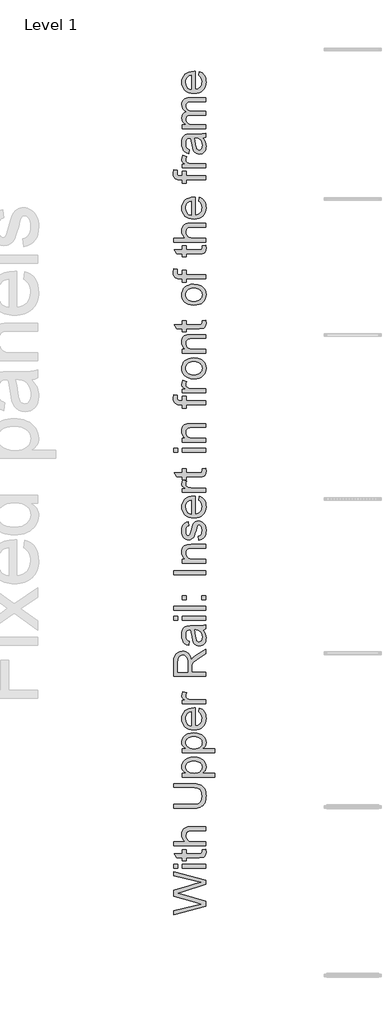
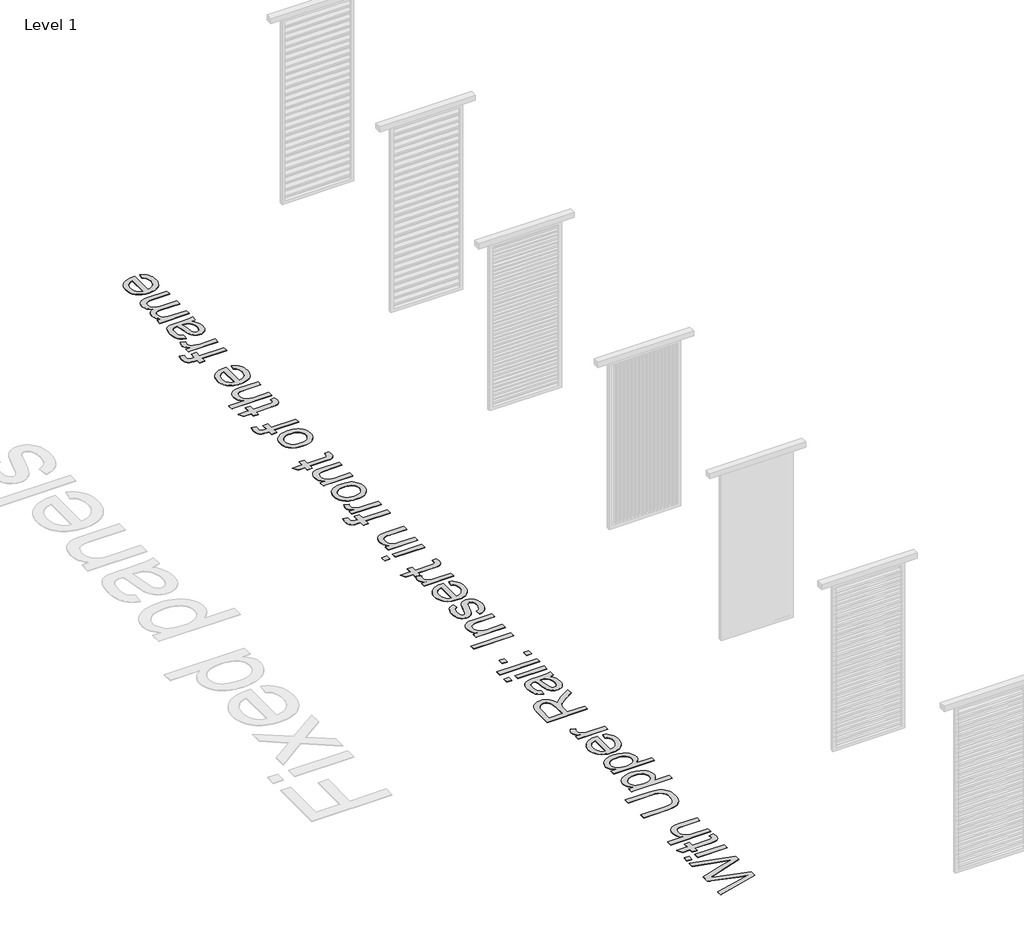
# One storey, part 26 of 80: 1 proxy.
"""IFC4 building model written with IfcOpenShell, lengths in millimetres."""

from ifc_helpers import new_model, si_unit, origin, origin_with_axes, place, context, project, spatial, polyline, outline, extrude, element, save

model = new_model("IFC4")

# Units and contexts
model_context = context("Model", 3, world=origin())
ifc_project = project(units=[si_unit("LENGTHUNIT", "METRE", prefix="MILLI")], contexts=[model_context])

# Site, building, storey
site = spatial("IfcSite", under=ifc_project)
building = spatial("IfcBuilding", under=site)
storey = spatial("IfcBuildingStorey", under=building, Name="Level 1", Elevation=0.0)

# Proxy
placement = place(None, origin())
element("IfcBuildingElementProxy", 1, Name="500mm Arial", ObjectType="500mm Arial", at=placement, inside=storey, context=model_context, shape_type="SweptSolid", body=[
    extrude(outline(polyline([(446088.2731482, -62789.962909), (445585.9915975, -62926.9376386), (445585.9915975, -62862.1904074), (445916.1043745, -62782.7278965), (446018.0076872, -62758.2024301), (445927.8765983, -62731.9601811), (445585.9915975, -62632.3867878), (445585.9915975, -62539.0673883), (445833.8214349, -62466.7172626), (445925.7919337, -62435.7232045), (446018.0076872, -62412.883864), (445919.0474305, -62389.0941616), (445585.9915975, -62308.8958867), (445585.9915975, -62244.1486555), (446088.2731482, -62381.2460124), (446088.2731482, -62448.3231629), (445700.77078, -62568.7432026), (445646.6921267, -62585.5431471), (445711.8072398, -62604.4277561), (446088.2731482, -62714.179218), (446088.2731482, -62789.962909)])), origin_with_axes(), (0.0, 0.0, 1.0), 5.0),
    extrude(outline(polyline([(446088.2731482, -62189.2116109), (445719.4101344, -62189.2116109), (445719.4101344, -62126.4264171), (446088.2731482, -62126.4264171), (446088.2731482, -62189.2116109)])), origin_with_axes(), (0.0, 0.0, 1.0), 5.0),
    extrude(outline(polyline([(445648.7767913, -62189.2116109), (445585.9915975, -62189.2116109), (445585.9915975, -62126.4264171), (445648.7767913, -62126.4264171), (445648.7767913, -62189.2116109)])), origin_with_axes(), (0.0, 0.0, 1.0), 5.0),
    extrude(outline(polyline([(446035.9112776, -61898.8300894), (446090.1125582, -61890.9819402), (446096.1212975, -61937.9482082), (446093.5154667, -61968.083875), (446085.6979743, -61990.5553335), (446073.6498389, -62006.435573), (446058.3520793, -62016.7975825), (446032.0791735, -62022.4997534), (445987.1055996, -62024.4004771), (445782.1953282, -62024.4004771), (445782.1953282, -62071.4893725), (445719.4101344, -62071.4893725), (445719.4101344, -62024.4004771), (445629.7695549, -62024.4004771), (445592.8587281, -61961.6152832), (445719.4101344, -61961.6152832), (445719.4101344, -61898.8300894), (445782.1953282, -61898.8300894), (445782.1953282, -61961.6152832), (445985.2661896, -61961.6152832), (446017.6398052, -61958.3043453), (446029.1054607, -61947.5744538), (446033.3361036, -61926.1759844), (446035.9112776, -61898.8300894)])), origin_with_axes(), (0.0, 0.0, 1.0), 5.0),
    extrude(outline(polyline([(446088.2731482, -61836.0448955), (445585.9915975, -61836.0448955), (445585.9915975, -61773.2597017), (445770.6683591, -61773.2597017), (445744.8093205, -61750.1980991), (445726.3385786, -61724.3007395), (445715.2561335, -61695.5676228), (445711.5619852, -61663.9987491), (445715.5933587, -61626.0762468), (445727.6874793, -61593.4880334), (445746.8939851, -61567.8282642), (445772.2625144, -61550.6910946), (445807.1193334, -61541.0341922), (445854.7907086, -61537.8152248), (446088.2731482, -61537.8152248), (446088.2731482, -61600.6004186), (445861.2899572, -61600.6004186), (445821.9878974, -61605.5974824), (445806.9813777, -61611.8438121), (445795.0711981, -61620.5886737), (445786.0044397, -61631.6251336), (445779.5281838, -61644.7462581), (445774.347179, -61677.242501), (445777.842058, -61703.7759899), (445788.3266948, -61728.6846666), (445804.7894141, -61749.3167152), (445826.2185403, -61763.0203195), (445854.6987381, -61770.6998562), (445892.3146721, -61773.2597017), (446088.2731482, -61773.2597017), (446088.2731482, -61836.0448955)])), origin_with_axes(), (0.0, 0.0, 1.0), 5.0),
    extrude(outline(polyline([(445585.9915975, -60917.8114356), (445585.9915975, -60855.0262417), (445875.7599824, -60855.0262417), (445943.618882, -60859.2875415), (445995.8734538, -60872.0714409), (446017.0649895, -60882.3031588), (446036.1871891, -60895.9531137), (446053.2400524, -60913.0213054), (446068.2235795, -60933.507734), (446080.4288311, -60957.4353922), (446089.146868, -60984.8272724), (446094.3776901, -61015.6833747), (446096.1212975, -61050.0036992), (446094.6037842, -61083.4771286), (446090.0512445, -61113.7545833), (446082.4636784, -61140.8360631), (446071.8410858, -61164.721568), (446058.340583, -61185.4149302), (446042.1192863, -61202.9199818), (446023.1771956, -61217.2367228), (446001.514311, -61228.3651532), (445976.3872043, -61236.7076438), (445947.0524473, -61242.6665657), (445875.7599824, -61247.4337033), (445585.9915975, -61247.4337033), (445585.9915975, -61184.6485094), (445873.5526904, -61184.6485094), (445929.9765914, -61181.5521693), (445969.2633228, -61172.2631489), (445996.471262, -61155.4325476), (446016.6587865, -61129.7114648), (446029.1667743, -61096.1728896), (446033.3361036, -61055.8898111), (446031.2744316, -61021.2859109), (446025.0894156, -60992.0316281), (446014.7810555, -60968.1269626), (446000.3493514, -60949.5719145), (445980.054528, -60935.676705), (445952.15681, -60925.7515553), (445916.6561975, -60919.7964655), (445873.5526904, -60917.8114356), (445585.9915975, -60917.8114356)])), origin_with_axes(), (0.0, 0.0, 1.0), 5.0),
    extrude(outline(polyline([(446229.5398344, -60753.0003017), (445719.4101344, -60753.0003017), (445719.4101344, -60690.2151079), (445780.9690549, -60690.2151079), (445750.6034619, -60669.7363435), (445728.9137526, -60646.8050325), (445715.899927, -60620.0722742), (445711.5619852, -60588.1891679), (445713.0794984, -60566.292525), (445717.6320381, -60545.7294543), (445725.2196042, -60526.4999558), (445735.8421969, -60508.6040296), (445749.2239044, -60492.4325502), (445765.0888155, -60478.3763923), (445804.268248, -60456.610041), (445850.5294089, -60443.4582596), (445901.0212127, -60439.0743325), (445954.7166556, -60444.025411), (446002.7405844, -60458.8786466), (446024.0164264, -60469.899778), (446042.6557808, -60483.1588583), (446058.6586476, -60498.6558873), (446072.0250268, -60516.3908652), (446090.0972298, -60555.0951168), (446096.1212975, -60595.7920625), (446092.0899239, -60624.6554707), (446079.9958033, -60650.4225388), (446061.7396593, -60672.4801301), (446039.2222155, -60690.2151079), (446229.5398344, -60690.2151079), (446229.5398344, -60753.0003017)]), holes=[polyline([(445906.7846973, -60690.2151079), (445937.0429914, -60688.5174858), (445963.0706425, -60683.4246194), (445984.8676508, -60674.9365088), (446002.434016, -60663.0531539), (446015.9536793, -60648.7479093), (446025.6105817, -60632.9941292), (446031.4047231, -60615.7918139), (446033.3361036, -60597.1409631), (446031.3357453, -60578.2218651), (446025.3346702, -60560.7053172), (446015.3328785, -60544.5913194), (446001.33037, -60529.8798717), (445983.1278755, -60517.6209706), (445960.5261254, -60508.8646127), (445933.5251198, -60503.610798), (445902.1248587, -60501.8595264), (445872.1271477, -60503.5686448), (445846.1454817, -60508.6960001), (445824.1798609, -60517.2415923), (445806.2302853, -60529.2054213), (445792.2814263, -60543.545155), (445782.3179556, -60559.2184608), (445776.3398732, -60576.2253389), (445774.347179, -60594.5657892), (445776.4663326, -60612.8487579), (445782.8237933, -60630.0510733), (445793.4195612, -60646.1727353), (445808.2536362, -60661.213744), (445827.126749, -60673.9018407), (445849.8396301, -60682.9647669), (445876.3922795, -60688.4025227), (445906.7846973, -60690.2151079)])]), origin_with_axes(), (0.0, 0.0, 1.0), 5.0),
    extrude(outline(polyline([(446229.5398344, -60368.4409895), (445719.4101344, -60368.4409895), (445719.4101344, -60305.6557956), (445780.9690549, -60305.6557956), (445750.6034619, -60285.1770312), (445728.9137526, -60262.2457202), (445715.899927, -60235.5129619), (445711.5619852, -60203.6298556), (445713.0794984, -60181.7332127), (445717.6320381, -60161.170142), (445725.2196042, -60141.9406436), (445735.8421969, -60124.0447173), (445749.2239044, -60107.873238), (445765.0888155, -60093.8170801), (445804.268248, -60072.0507287), (445850.5294089, -60058.8989473), (445901.0212127, -60054.5150202), (445954.7166556, -60059.4660988), (446002.7405844, -60074.3193343), (446024.0164264, -60085.3404658), (446042.6557808, -60098.599546), (446058.6586476, -60114.096575), (446072.0250268, -60131.8315529), (446090.0972298, -60170.5358045), (446096.1212975, -60211.2327502), (446092.0899239, -60240.0961584), (446079.9958033, -60265.8632265), (446061.7396593, -60287.9208178), (446039.2222155, -60305.6557956), (446229.5398344, -60305.6557956), (446229.5398344, -60368.4409895)]), holes=[polyline([(445906.7846973, -60305.6557956), (445937.0429914, -60303.9581735), (445963.0706425, -60298.8653071), (445984.8676508, -60290.3771965), (446002.434016, -60278.4938416), (446015.9536793, -60264.188597), (446025.6105817, -60248.4348169), (446031.4047231, -60231.2325016), (446033.3361036, -60212.5816508), (446031.3357453, -60193.6625528), (446025.3346702, -60176.1460049), (446015.3328785, -60160.0320071), (446001.33037, -60145.3205594), (445983.1278755, -60133.0616583), (445960.5261254, -60124.3053004), (445933.5251198, -60119.0514857), (445902.1248587, -60117.3002141), (445872.1271477, -60119.0093325), (445846.1454817, -60124.1366878), (445824.1798609, -60132.68228), (445806.2302853, -60144.6461091), (445792.2814263, -60158.9858427), (445782.3179556, -60174.6591485), (445776.3398732, -60191.6660266), (445774.347179, -60210.0064769), (445776.4663326, -60228.2894456), (445782.8237933, -60245.491761), (445793.4195612, -60261.613423), (445808.2536362, -60276.6544317), (445827.126749, -60289.3425284), (445849.8396301, -60298.4054546), (445876.3922795, -60303.8432104), (445906.7846973, -60305.6557956)])]), origin_with_axes(), (0.0, 0.0, 1.0), 5.0),
    extrude(outline(polyline([(445978.399059, -59725.6285166), (445986.2472082, -59664.069596), (446010.9029661, -59673.5080685), (446032.6309965, -59686.2498147), (446051.4312993, -59702.2948346), (446067.3038745, -59721.6431283), (446079.9114971, -59744.0954263), (446088.9169417, -59769.4524592), (446094.3202085, -59797.7142271), (446096.1212975, -59828.8807299), (446093.013461, -59867.8379003), (446083.6899517, -59902.5490994), (446068.1507695, -59933.0143271), (446046.3959144, -59959.2335835), (446019.030859, -59980.3178203), (445986.6610755, -59995.3779895), (445949.286564, -60004.414091), (445906.9073246, -60007.4261249), (445863.0910461, -60004.3834342), (445824.4711009, -59995.2553622), (445791.0474888, -59980.0419088), (445762.8202098, -59958.7430742), (445740.3947365, -59932.5927957), (445724.3765413, -59902.8250109), (445714.7656242, -59869.4397198), (445711.5619852, -59832.4369225), (445714.75796, -59796.6259095), (445724.3458845, -59764.2407976), (445740.3257587, -59735.2815868), (445762.6975825, -59709.7482771), (445790.8635478, -59688.9054628), (445824.2258462, -59674.0177383), (445862.7844778, -59665.0851036), (445906.5394426, -59662.1075587), (445923.4620144, -59662.4754407), (445923.4620144, -59944.640931), (445948.5163111, -59941.0042642), (445970.4589393, -59933.7730837), (445989.2898989, -59922.9473896), (446005.00919, -59908.5271818), (446017.4022147, -59891.309538), (446026.2543752, -59872.0915359), (446031.5656715, -59850.8731754), (446033.3361036, -59827.6544565), (446030.0558225, -59794.2385087), (446020.2149791, -59766.095536), (446003.2004368, -59743.2255387), (445978.399059, -59725.6285166)]), holes=[polyline([(445860.6768206, -59944.640931), (445860.6768206, -59724.8927526), (445827.5061273, -59733.3846953), (445803.7777386, -59750.0313556), (445790.9018688, -59767.1531968), (445781.7048189, -59786.6356141), (445776.186589, -59808.4786075), (445774.347179, -59832.6821771), (445780.2179625, -59875.003935), (445787.5564419, -59893.4171953), (445797.830313, -59909.9987098), (445810.564395, -59923.9130798), (445825.2835069, -59934.3249067), (445841.9876488, -59941.2341905), (445860.6768206, -59944.640931)])]), origin_with_axes(), (0.0, 0.0, 1.0), 5.0),
    extrude(outline(polyline([(446088.2731482, -59599.3223649), (445719.4101344, -59599.3223649), (445719.4101344, -59544.3853203), (445773.979297, -59544.3853203), (445742.3414454, -59524.0904969), (445723.702091, -59505.3898288), (445714.5970116, -59486.627847), (445711.5619852, -59466.1490826), (445716.4057648, -59434.879113), (445730.9371036, -59403.1186341), (445787.2230488, -59424.0879078), (445777.5661465, -59446.1608275), (445774.347179, -59468.2337473), (445777.4435191, -59486.9804006), (445786.7325395, -59503.7343598), (445801.509133, -59517.2693515), (445821.0681924, -59526.3591025), (445856.1396093, -59533.9926539), (445894.3993368, -59536.537171), (446088.2731482, -59536.537171), (446088.2731482, -59599.3223649)])), origin_with_axes(), (0.0, 0.0, 1.0), 5.0),
    extrude(outline(polyline([(446088.2731482, -59159.826008), (445585.9915975, -59159.826008), (445585.9915975, -58943.3887675), (445589.3791775, -58885.217427), (445599.5419176, -58842.8956691), (445618.3038994, -58811.9629247), (445647.4892043, -58787.9586245), (445683.6795956, -58772.553566), (445723.4568363, -58767.4185464), (445749.2545613, -58769.5453642), (445772.9369647, -58775.9258176), (445794.5040467, -58786.5599065), (445813.9558072, -58801.447631), (445830.6714453, -58820.7805963), (445844.0301603, -58844.7504075), (445854.031952, -58873.3570647), (445860.6768206, -58906.600568), (445874.1964839, -58885.9072057), (445887.5322062, -58870.9160144), (445952.15681, -58820.0256718), (446088.2731482, -58736.2712042), (446088.2731482, -58809.2344666), (445984.1625436, -58874.5948344), (445915.2459832, -58921.8063571), (445895.1504292, -58939.3573939), (445882.6884266, -58954.9770503), (445870.7322618, -58984.8368056), (445868.5249698, -59021.2571231), (445868.5249698, -59097.0408141), (446088.2731482, -59097.0408141), (446088.2731482, -59159.826008)]), holes=[polyline([(445805.7397759, -59097.0408141), (445805.7397759, -58956.509892), (445803.5171555, -58916.1501714), (445796.8492944, -58884.8342166), (445785.2916684, -58861.259112), (445768.3997534, -58844.1219424), (445747.9669743, -58833.6832908), (445725.7867557, -58830.2037403), (445709.7302394, -58831.8630414), (445695.1605796, -58836.8409446), (445682.0777761, -58845.13745), (445670.481829, -58856.7525576), (445660.985875, -58871.9545146), (445654.2030508, -58891.0115684), (445648.7767913, -58940.6909662), (445648.7767913, -59097.0408141), (445805.7397759, -59097.0408141)])]), origin_with_axes(), (0.0, 0.0, 1.0), 5.0),
    extrude(outline(polyline([(446041.1842529, -58429.9481295), (446066.9053357, -58459.9458406), (446083.735937, -58490.8325997), (446093.0249573, -58523.3135142), (446096.1212975, -58558.0936912), (446094.2588949, -58586.0488907), (446088.6716871, -58610.5628608), (446079.3596741, -58631.6356013), (446066.3228559, -58649.2671123), (446050.3889669, -58663.1891466), (446032.3857418, -58673.1334568), (446012.3131804, -58679.1000429), (445990.1712829, -58681.0889049), (445964.1436317, -58678.0845353), (445940.5072135, -58669.0714264), (445920.2737038, -58655.1685527), (445904.454778, -58637.4948885), (445892.4986131, -58616.7248842), (445883.8533862, -58593.5329901), (445874.4110817, -58539.2090821), (445864.4782678, -58475.0136739), (445852.8286713, -58430.3160115), (445838.8491555, -58429.9481295), (445810.8288102, -58434.270743), (445792.4960241, -58447.2385833), (445784.5559044, -58460.3137226), (445778.8843903, -58476.2399473), (445774.347179, -58516.6456531), (445777.3668771, -58554.0469892), (445786.4259712, -58580.1666109), (445803.1799304, -58597.9782308), (445829.2842236, -58610.4555618), (445821.4360744, -58673.2407557), (445787.1004215, -58662.3422516), (445760.1224085, -58646.0788017), (445739.49036, -58622.9328928), (445724.1926003, -58591.3870118), (445714.719639, -58552.8053875), (445711.5619852, -58508.5522492), (445714.351757, -58466.107864), (445722.7210724, -58432.4619898), (445735.3057023, -58407.0934606), (445750.7414177, -58389.4811101), (445769.8252962, -58377.8008567), (445793.3544154, -58370.228619), (445848.29146, -58367.1629357), (445926.4050704, -58367.1629357), (446035.4820819, -58363.9746251), (446062.4447665, -58359.2534728), (446088.2731482, -58351.4666372), (446088.2731482, -58414.2518311), (446066.4454832, -58424.3072723), (446041.1842529, -58429.9481295)]), holes=[polyline([(445915.6138652, -58429.9481295), (445926.0678452, -58472.1319317), (445934.8663562, -58531.2383055), (445945.0444248, -58585.2556452), (445952.0035259, -58599.3118031), (445961.5991146, -58609.7197978), (445973.0954269, -58616.1577328), (445985.7566989, -58618.3037111), (446004.4267102, -58613.628544), (446019.7244698, -58599.603043), (446029.9331952, -58576.5337762), (446033.3361036, -58544.727312), (446029.5806416, -58511.0047958), (446018.3142555, -58481.2063542), (446001.7135805, -58457.0487698), (445981.9552516, -58440.2488254), (445961.5991146, -58432.799215), (445933.3948283, -58430.3160115), (445915.6138652, -58429.9481295)])]), origin_with_axes(), (0.0, 0.0, 1.0), 5.0),
    extrude(outline(polyline([(446088.2731482, -58280.8332942), (445719.4101344, -58280.8332942), (445719.4101344, -58218.0481003), (446088.2731482, -58218.0481003), (446088.2731482, -58280.8332942)])), origin_with_axes(), (0.0, 0.0, 1.0), 5.0),
    extrude(outline(polyline([(445648.7767913, -58280.8332942), (445585.9915975, -58280.8332942), (445585.9915975, -58218.0481003), (445648.7767913, -58218.0481003), (445648.7767913, -58280.8332942)])), origin_with_axes(), (0.0, 0.0, 1.0), 5.0),
    extrude(outline(polyline([(446088.2731482, -58123.8703096), (445585.9915975, -58123.8703096), (445585.9915975, -58061.0851157), (446088.2731482, -58061.0851157), (446088.2731482, -58123.8703096)])), origin_with_axes(), (0.0, 0.0, 1.0), 5.0),
    extrude(outline(polyline([(446088.2731482, -57951.2110265), (446025.4879544, -57951.2110265), (446025.4879544, -57888.4258326), (446088.2731482, -57888.4258326), (446088.2731482, -57951.2110265)])), origin_with_axes(), (0.0, 0.0, 1.0), 5.0),
    extrude(outline(polyline([(445782.1953282, -57951.2110265), (445719.4101344, -57951.2110265), (445719.4101344, -57888.4258326), (445782.1953282, -57888.4258326), (445782.1953282, -57951.2110265)])), origin_with_axes(), (0.0, 0.0, 1.0), 5.0),
    extrude(outline(polyline([(446088.2731482, -57558.803565), (445585.9915975, -57558.803565), (445585.9915975, -57496.0183711), (446088.2731482, -57496.0183711), (446088.2731482, -57558.803565)])), origin_with_axes(), (0.0, 0.0, 1.0), 5.0),
    extrude(outline(polyline([(446088.2731482, -57378.2961327), (445719.4101344, -57378.2961327), (445719.4101344, -57315.5109388), (445770.9136137, -57315.5109388), (445744.9472762, -57293.6986022), (445726.3998923, -57267.5023384), (445715.271462, -57236.9221476), (445711.5619852, -57201.9580296), (445714.5510264, -57171.0099568), (445723.51815, -57142.6677147), (445737.3443817, -57119.0312966), (445754.9107469, -57102.2006953), (445776.1712606, -57090.781025), (445801.0799373, -57083.3773999), (445861.7804665, -57080.0664619), (446088.2731482, -57080.0664619), (446088.2731482, -57142.8516557), (445870.2417524, -57142.8516557), (445837.7761664, -57144.6604089), (445814.6915712, -57150.0866683), (445798.1522098, -57160.0961243), (445785.3223252, -57175.654467), (445777.0909656, -57195.5967368), (445774.347179, -57218.7579741), (445775.8876849, -57237.8226921), (445780.5092024, -57255.5308452), (445788.2117317, -57271.8824335), (445798.9952727, -57286.8774569), (445814.0860987, -57299.4046052), (445834.7104831, -57308.3525683), (445860.8684258, -57313.7213462), (445892.5599268, -57315.5109388), (446088.2731482, -57315.5109388), (446088.2731482, -57378.2961327)])), origin_with_axes(), (0.0, 0.0, 1.0), 5.0),
    extrude(outline(polyline([(445978.399059, -57017.2812681), (445970.5509098, -56954.4960742), (445997.4062954, -56944.5939172), (446017.1492958, -56925.4333966), (446029.2894017, -56896.8918851), (446033.3361036, -56858.8467555), (446029.6266268, -56821.2614783), (446018.4981965, -56794.8352883), (446002.3727024, -56779.2003035), (445983.6720343, -56773.9886419), (445967.6691675, -56779.2309603), (445955.467748, -56794.9579156), (445937.5641575, -56859.5825195), (445920.9941393, -56916.8801402), (445906.8460109, -56954.1281922), (445891.4102956, -56978.0558503), (445870.9775164, -56995.3922893), (445846.8505889, -57005.9229115), (445820.3324284, -57009.4331188), (445796.0062315, -57006.6126902), (445773.5501014, -56998.1514043), (445753.8530862, -56984.815682), (445737.8042342, -56967.371944), (445727.7028077, -56950.035505), (445719.2261934, -56927.4567476), (445713.4780372, -56901.3524543), (445711.5619852, -56873.4394079), (445714.6429969, -56832.5738496), (445723.886032, -56797.0425803), (445738.386714, -56768.470412), (445757.2406662, -56748.4821569), (445781.8427747, -56735.2384051), (445813.5879252, -56726.8997465), (445821.4360744, -56789.6849404), (445801.6777456, -56797.6097317), (445786.7938532, -56813.2907017), (445777.4588476, -56836.8811347), (445774.347179, -56868.5343147), (445777.3208918, -56904.5867502), (445786.2420302, -56928.6217072), (445799.1179, -56942.1413705), (445813.9558072, -56946.647925), (445823.6127095, -56944.7778582), (445832.2272796, -56939.1676577), (445839.9221447, -56929.572069), (445846.0841681, -56915.7458374), (445859.4505472, -56861.6671841), (445889.0037342, -56769.5127443), (445903.1365342, -56745.171219), (445922.4809957, -56726.7158055), (445947.0984326, -56715.0815374), (445977.0501584, -56711.2034481), (446008.0135596, -56715.7559878), (446037.1375509, -56729.4136068), (446062.1381982, -56751.6551391), (446080.7315673, -56781.9594185), (446092.2738649, -56818.563677), (446096.1212975, -56859.7051468), (446094.2665591, -56893.4966409), (446088.7023439, -56923.0115068), (446079.4286519, -56948.2497445), (446066.4454832, -56969.211354), (446049.8141513, -56986.3331952), (446029.59597, -57000.052128), (446005.7909392, -57010.3681522), (445978.399059, -57017.2812681)])), origin_with_axes(), (0.0, 0.0, 1.0), 5.0),
    extrude(outline(polyline([(445978.399059, -56382.3169444), (445986.2472082, -56320.7580239), (446010.9029661, -56330.1964963), (446032.6309965, -56342.9382425), (446051.4312993, -56358.9832624), (446067.3038745, -56378.3315561), (446079.9114971, -56400.7838541), (446088.9169417, -56426.1408871), (446094.3202085, -56454.4026549), (446096.1212975, -56485.5691577), (446093.013461, -56524.5263281), (446083.6899517, -56559.2375272), (446068.1507695, -56589.702755), (446046.3959144, -56615.9220113), (446019.030859, -56637.0062482), (445986.6610755, -56652.0664173), (445949.286564, -56661.1025189), (445906.9073246, -56664.1145527), (445863.0910461, -56661.071862), (445824.4711009, -56651.94379), (445791.0474888, -56636.7303367), (445762.8202098, -56615.431502), (445740.3947365, -56589.2812235), (445724.3765413, -56559.5134387), (445714.7656242, -56526.1281477), (445711.5619852, -56489.1253503), (445714.75796, -56453.3143373), (445724.3458845, -56420.9292255), (445740.3257587, -56391.9700147), (445762.6975825, -56366.4367049), (445790.8635478, -56345.5938906), (445824.2258462, -56330.7061661), (445862.7844778, -56321.7735314), (445906.5394426, -56318.7959866), (445923.4620144, -56319.1638685), (445923.4620144, -56601.3293588), (445948.5163111, -56597.692692), (445970.4589393, -56590.4615116), (445989.2898989, -56579.6358174), (446005.00919, -56565.2156097), (446017.4022147, -56547.9979659), (446026.2543752, -56528.7799637), (446031.5656715, -56507.5616032), (446033.3361036, -56484.3428844), (446030.0558225, -56450.9269365), (446020.2149791, -56422.7839639), (446003.2004368, -56399.9139665), (445978.399059, -56382.3169444)]), holes=[polyline([(445860.6768206, -56601.3293588), (445860.6768206, -56381.5811804), (445827.5061273, -56390.0731231), (445803.7777386, -56406.7197834), (445790.9018688, -56423.8416246), (445781.7048189, -56443.3240419), (445776.186589, -56465.1670354), (445774.347179, -56489.370605), (445780.2179625, -56531.6923628), (445787.5564419, -56550.1056231), (445797.830313, -56566.6871376), (445810.564395, -56580.6015077), (445825.2835069, -56591.0133346), (445841.9876488, -56597.9226183), (445860.6768206, -56601.3293588)])]), origin_with_axes(), (0.0, 0.0, 1.0), 5.0),
    extrude(outline(polyline([(446035.9112776, -55887.1477789), (446090.1125582, -55879.2996296), (446096.1212975, -55926.2658977), (446093.5154667, -55956.4015645), (446085.6979743, -55978.873023), (446073.6498389, -55994.7532625), (446058.3520793, -56005.115272), (446032.0791735, -56010.8174429), (445987.1055996, -56012.7181666), (445782.1953282, -56012.7181666), (445782.1953282, -56059.8070619), (445730.9371036, -56059.8070619), (445719.4101344, -56059.8070619), (445719.4101344, -56012.7181666), (445629.7695549, -56012.7181666), (445592.8587281, -55949.9329727), (445719.4101344, -55949.9329727), (445719.4101344, -55887.1477789), (445782.1953282, -55887.1477789), (445782.1953282, -55949.9329727), (445985.2661896, -55949.9329727), (446017.6398052, -55946.6220348), (446029.1054607, -55935.8921432), (446033.3361036, -55914.4936739), (446035.9112776, -55887.1477789)])), origin_with_axes(), (0.0, 0.0, 1.0), 5.0),
    extrude(outline(polyline([(446088.2731482, -56256.0107927), (445719.4101344, -56256.0107927), (445719.4101344, -56201.0737481), (445773.979297, -56201.0737481), (445742.3414454, -56180.7789247), (445723.702091, -56162.0782566), (445714.5970116, -56143.3162749), (445711.5619852, -56122.8375105), (445716.4057648, -56091.5675409), (445730.9371036, -56059.8070619), (445787.2230488, -56080.7763357), (445777.5661465, -56102.8492554), (445774.347179, -56124.9221751), (445777.4435191, -56143.6688284), (445786.7325395, -56160.4227876), (445801.509133, -56173.9577794), (445821.0681924, -56183.0475303), (445856.1396093, -56190.6810817), (445894.3993368, -56193.2255989), (446088.2731482, -56193.2255989), (446088.2731482, -56256.0107927)])), origin_with_axes(), (0.0, 0.0, 1.0), 5.0),
    extrude(outline(polyline([(445648.7767913, -55628.1588543), (445585.9915975, -55628.1588543), (445585.9915975, -55565.3736604), (445648.7767913, -55565.3736604), (445648.7767913, -55628.1588543)])), origin_with_axes(), (0.0, 0.0, 1.0), 5.0),
    extrude(outline(polyline([(446088.2731482, -55628.1588543), (445719.4101344, -55628.1588543), (445719.4101344, -55565.3736604), (446088.2731482, -55565.3736604), (446088.2731482, -55628.1588543)])), origin_with_axes(), (0.0, 0.0, 1.0), 5.0),
    extrude(outline(polyline([(446088.2731482, -55471.1958697), (445719.4101344, -55471.1958697), (445719.4101344, -55408.4106758), (445770.9136137, -55408.4106758), (445744.9472762, -55386.5983392), (445726.3998923, -55360.4020754), (445715.271462, -55329.8218846), (445711.5619852, -55294.8577666), (445714.5510264, -55263.9096938), (445723.51815, -55235.5674518), (445737.3443817, -55211.9310336), (445754.9107469, -55195.1004323), (445776.1712606, -55183.680762), (445801.0799373, -55176.2771369), (445861.7804665, -55172.9661989), (446088.2731482, -55172.9661989), (446088.2731482, -55235.7513927), (445870.2417524, -55235.7513927), (445837.7761664, -55237.5601459), (445814.6915712, -55242.9864053), (445798.1522098, -55252.9958613), (445785.3223252, -55268.554204), (445777.0909656, -55288.4964738), (445774.347179, -55311.6577111), (445775.8876849, -55330.7224291), (445780.5092024, -55348.4305822), (445788.2117317, -55364.7821705), (445798.9952727, -55379.7771939), (445814.0860987, -55392.3043422), (445834.7104831, -55401.2523053), (445860.8684258, -55406.6210832), (445892.5599268, -55408.4106758), (446088.2731482, -55408.4106758), (446088.2731482, -55471.1958697)])), origin_with_axes(), (0.0, 0.0, 1.0), 5.0),
    extrude(outline(polyline([(446088.2731482, -54874.7365281), (445782.1953282, -54874.7365281), (445782.1953282, -54929.6735728), (445719.4101344, -54929.6735728), (445719.4101344, -54874.7365281), (445682.2540529, -54874.7365281), (445651.5052495, -54873.0810592), (445629.8921822, -54868.1146522), (445609.014879, -54855.4840371), (445592.4908461, -54835.9862913), (445581.7302977, -54808.70171), (445578.1434483, -54772.7105882), (445585.0105788, -54715.4436242), (445643.8716981, -54724.6406741), (445640.9286421, -54760.815737), (445643.5344729, -54784.6820814), (445651.3519653, -54800.3630515), (445666.2818429, -54809.0542636), (445690.2248295, -54811.9513343), (445719.4101344, -54811.9513343), (445719.4101344, -54741.3179912), (445782.1953282, -54741.3179912), (445782.1953282, -54811.9513343), (446088.2731482, -54811.9513343), (446088.2731482, -54874.7365281)])), origin_with_axes(), (0.0, 0.0, 1.0), 5.0),
    extrude(outline(polyline([(446088.2731482, -54686.3809466), (445719.4101344, -54686.3809466), (445719.4101344, -54631.443902), (445773.979297, -54631.443902), (445742.3414454, -54611.1490786), (445723.702091, -54592.4484105), (445714.5970116, -54573.6864288), (445711.5619852, -54553.2076644), (445716.4057648, -54521.9376948), (445730.9371036, -54490.1772159), (445787.2230488, -54511.1464896), (445777.5661465, -54533.2194093), (445774.347179, -54555.292329), (445777.4435191, -54574.0389823), (445786.7325395, -54590.7929415), (445801.509133, -54604.3279333), (445821.0681924, -54613.4176842), (445856.1396093, -54621.0512356), (445894.3993368, -54623.5957528), (446088.2731482, -54623.5957528), (446088.2731482, -54686.3809466)])), origin_with_axes(), (0.0, 0.0, 1.0), 5.0),
    extrude(outline(polyline([(445903.8416413, -54466.6327682), (445856.0706314, -54463.2375239), (445814.906169, -54453.0517912), (445780.3482541, -54436.0755699), (445752.3968866, -54412.3088602), (445734.5316172, -54388.3812021), (445721.7707105, -54361.9703405), (445714.1141665, -54333.0762755), (445711.5619852, -54301.699007), (445714.6698216, -54267.0606179), (445723.9933309, -54235.7408309), (445739.5325131, -54207.7396462), (445761.2873682, -54183.0570636), (445788.5221321, -54162.9116922), (445820.501041, -54148.5221413), (445857.2240947, -54139.8884107), (445898.6912934, -54137.0105005), (445962.1202807, -54142.0995348), (445988.1555961, -54148.4608276), (446010.4047926, -54157.3666376), (446029.6227947, -54168.7058336), (446046.564527, -54182.3672848), (446061.2299895, -54198.3509911), (446073.6191821, -54216.6569524), (446090.4957686, -54257.384555), (446096.1212975, -54301.699007), (446093.0249573, -54336.8432338), (446083.735937, -54368.4542607), (446068.2542363, -54396.5320876), (446046.5798554, -54421.0767144), (446019.0806763, -54441.0074879), (445986.1245809, -54455.2437547), (445947.7115692, -54463.7855148), (445903.8416413, -54466.6327682)]), holes=[polyline([(445903.719014, -54403.8475743), (445934.1727454, -54402.031157), (445960.5414538, -54396.5819049), (445982.8251393, -54387.4998182), (446001.0238017, -54374.7848967), (446015.1604338, -54359.3185245), (446025.2580281, -54341.9820855), (446031.3165848, -54322.7755796), (446033.3361036, -54301.699007), (446031.3050884, -54280.7297333), (446025.2120429, -54261.5998695), (446015.056967, -54244.3094157), (446000.8398607, -54228.858372), (445982.4610894, -54216.1434505), (445959.8210183, -54207.0613637), (445932.9196474, -54201.6121117), (445901.7569767, -54199.7956943), (445872.2689355, -54201.623608), (445846.5900058, -54207.107349), (445824.7201876, -54216.2469173), (445806.6594809, -54229.0423129), (445792.5228488, -54244.5508383), (445782.4252545, -54261.8297958), (445776.3666979, -54280.8791853), (445774.347179, -54301.699007), (445776.3590337, -54322.7755796), (445782.3945977, -54341.9820855), (445792.453871, -54359.3185245), (445806.5368536, -54374.7848967), (445824.6818666, -54387.4998182), (445846.927231, -54396.5819049), (445873.2729468, -54402.031157), (445903.719014, -54403.8475743)])]), origin_with_axes(), (0.0, 0.0, 1.0), 5.0),
    extrude(outline(polyline([(446088.2731482, -54066.3771574), (445719.4101344, -54066.3771574), (445719.4101344, -54003.5919636), (445770.9136137, -54003.5919636), (445744.9472762, -53981.7796269), (445726.3998923, -53955.5833632), (445715.271462, -53925.0031724), (445711.5619852, -53890.0390544), (445714.5510264, -53859.0909815), (445723.51815, -53830.7487395), (445737.3443817, -53807.1123213), (445754.9107469, -53790.28172), (445776.1712606, -53778.8620498), (445801.0799373, -53771.4584246), (445861.7804665, -53768.1474867), (446088.2731482, -53768.1474867), (446088.2731482, -53830.9326805), (445870.2417524, -53830.9326805), (445837.7761664, -53832.7414336), (445814.6915712, -53838.1676931), (445798.1522098, -53848.177149), (445785.3223252, -53863.7354917), (445777.0909656, -53883.6777616), (445774.347179, -53906.8389988), (445775.8876849, -53925.9037168), (445780.5092024, -53943.6118699), (445788.2117317, -53959.9634582), (445798.9952727, -53974.9584816), (445814.0860987, -53987.48563), (445834.7104831, -53996.4335931), (445860.8684258, -54001.8023709), (445892.5599268, -54003.5919636), (446088.2731482, -54003.5919636), (446088.2731482, -54066.3771574)])), origin_with_axes(), (0.0, 0.0, 1.0), 5.0),
    extrude(outline(polyline([(446035.9112776, -53548.3993082), (446090.1125582, -53540.551159), (446096.1212975, -53587.517427), (446093.5154667, -53617.6530938), (446085.6979743, -53640.1245523), (446073.6498389, -53656.0047918), (446058.3520793, -53666.3668013), (446032.0791735, -53672.0689723), (445987.1055996, -53673.9696959), (445782.1953282, -53673.9696959), (445782.1953282, -53721.0585913), (445719.4101344, -53721.0585913), (445719.4101344, -53673.9696959), (445629.7695549, -53673.9696959), (445592.8587281, -53611.184502), (445719.4101344, -53611.184502), (445719.4101344, -53548.3993082), (445782.1953282, -53548.3993082), (445782.1953282, -53611.184502), (445985.2661896, -53611.184502), (446017.6398052, -53607.8735641), (446029.1054607, -53597.1436726), (446033.3361036, -53575.7452032), (446035.9112776, -53548.3993082)])), origin_with_axes(), (0.0, 0.0, 1.0), 5.0),
    extrude(outline(polyline([(445903.8416413, -53305.1066821), (445856.0706314, -53301.7114378), (445814.906169, -53291.5257051), (445780.3482541, -53274.5494838), (445752.3968866, -53250.7827741), (445734.5316172, -53226.855116), (445721.7707105, -53200.4442544), (445714.1141665, -53171.5501894), (445711.5619852, -53140.1729209), (445714.6698216, -53105.5345318), (445723.9933309, -53074.2147448), (445739.5325131, -53046.2135601), (445761.2873682, -53021.5309774), (445788.5221321, -53001.3856061), (445820.501041, -52986.9960551), (445857.2240947, -52978.3623246), (445898.6912934, -52975.4844144), (445962.1202807, -52980.5734486), (445988.1555961, -52986.9347415), (446010.4047926, -52995.8405514), (446029.6227947, -53007.1797475), (446046.564527, -53020.8411987), (446061.2299895, -53036.824905), (446073.6191821, -53055.1308663), (446090.4957686, -53095.8584689), (446096.1212975, -53140.1729209), (446093.0249573, -53175.3171477), (446083.735937, -53206.9281746), (446068.2542363, -53235.0060015), (446046.5798554, -53259.5506283), (446019.0806763, -53279.4814018), (445986.1245809, -53293.7176686), (445947.7115692, -53302.2594287), (445903.8416413, -53305.1066821)]), holes=[polyline([(445903.719014, -53242.3214882), (445934.1727454, -53240.5050709), (445960.5414538, -53235.0558188), (445982.8251393, -53225.9737321), (446001.0238017, -53213.2588106), (446015.1604338, -53197.7924384), (446025.2580281, -53180.4559994), (446031.3165848, -53161.2494935), (446033.3361036, -53140.1729209), (446031.3050884, -53119.2036472), (446025.2120429, -53100.0737834), (446015.056967, -53082.7833296), (446000.8398607, -53067.3322858), (445982.4610894, -53054.6173644), (445959.8210183, -53045.5352776), (445932.9196474, -53040.0860256), (445901.7569767, -53038.2696082), (445872.2689355, -53040.0975219), (445846.5900058, -53045.5812629), (445824.7201876, -53054.7208312), (445806.6594809, -53067.5162268), (445792.5228488, -53083.0247522), (445782.4252545, -53100.3037097), (445776.3666979, -53119.3530992), (445774.347179, -53140.1729209), (445776.3590337, -53161.2494935), (445782.3945977, -53180.4559994), (445792.453871, -53197.7924384), (445806.5368536, -53213.2588106), (445824.6818666, -53225.9737321), (445846.927231, -53235.0558188), (445873.2729468, -53240.5050709), (445903.719014, -53242.3214882)])]), origin_with_axes(), (0.0, 0.0, 1.0), 5.0),
    extrude(outline(polyline([(446088.2731482, -52889.1547728), (445782.1953282, -52889.1547728), (445782.1953282, -52944.0918175), (445719.4101344, -52944.0918175), (445719.4101344, -52889.1547728), (445682.2540529, -52889.1547728), (445651.5052495, -52887.4993039), (445629.8921822, -52882.5328969), (445609.014879, -52869.9022818), (445592.4908461, -52850.404536), (445581.7302977, -52823.1199547), (445578.1434483, -52787.1288329), (445585.0105788, -52729.8618689), (445643.8716981, -52739.0589188), (445640.9286421, -52775.2339817), (445643.5344729, -52799.1003261), (445651.3519653, -52814.7812962), (445666.2818429, -52823.4725083), (445690.2248295, -52826.369579), (445719.4101344, -52826.369579), (445719.4101344, -52755.7362359), (445782.1953282, -52755.7362359), (445782.1953282, -52826.369579), (446088.2731482, -52826.369579), (446088.2731482, -52889.1547728)])), origin_with_axes(), (0.0, 0.0, 1.0), 5.0),
    extrude(outline(polyline([(446035.9112776, -52371.1769236), (446090.1125582, -52363.3287744), (446096.1212975, -52410.2950425), (446093.5154667, -52440.4307092), (446085.6979743, -52462.9021678), (446073.6498389, -52478.7824072), (446058.3520793, -52489.1444168), (446032.0791735, -52494.8465877), (445987.1055996, -52496.7473113), (445782.1953282, -52496.7473113), (445782.1953282, -52543.8362067), (445719.4101344, -52543.8362067), (445719.4101344, -52496.7473113), (445629.7695549, -52496.7473113), (445592.8587281, -52433.9621175), (445719.4101344, -52433.9621175), (445719.4101344, -52371.1769236), (445782.1953282, -52371.1769236), (445782.1953282, -52433.9621175), (445985.2661896, -52433.9621175), (446017.6398052, -52430.6511795), (446029.1054607, -52419.921288), (446033.3361036, -52398.5228186), (446035.9112776, -52371.1769236)])), origin_with_axes(), (0.0, 0.0, 1.0), 5.0),
    extrude(outline(polyline([(446088.2731482, -52308.3917298), (445585.9915975, -52308.3917298), (445585.9915975, -52245.606536), (445770.6683591, -52245.606536), (445744.8093205, -52222.5449334), (445726.3385786, -52196.6475738), (445715.2561335, -52167.9144571), (445711.5619852, -52136.3455834), (445715.5933587, -52098.423081), (445727.6874793, -52065.8348676), (445746.8939851, -52040.1750985), (445772.2625144, -52023.0379289), (445807.1193334, -52013.3810265), (445854.7907086, -52010.162059), (446088.2731482, -52010.162059), (446088.2731482, -52072.9472529), (445861.2899572, -52072.9472529), (445821.9878974, -52077.9443167), (445806.9813777, -52084.1906464), (445795.0711981, -52092.935508), (445786.0044397, -52103.9719678), (445779.5281838, -52117.0930923), (445774.347179, -52149.5893352), (445777.842058, -52176.1228241), (445788.3266948, -52201.0315009), (445804.7894141, -52221.6635494), (445826.2185403, -52235.3671538), (445854.6987381, -52243.0466904), (445892.3146721, -52245.606536), (446088.2731482, -52245.606536), (446088.2731482, -52308.3917298)])), origin_with_axes(), (0.0, 0.0, 1.0), 5.0),
    extrude(outline(polyline([(445978.399059, -51665.5792569), (445986.2472082, -51604.0203364), (446010.9029661, -51613.4588088), (446032.6309965, -51626.200555), (446051.4312993, -51642.2455749), (446067.3038745, -51661.5938686), (446079.9114971, -51684.0461666), (446088.9169417, -51709.4031996), (446094.3202085, -51737.6649674), (446096.1212975, -51768.8314702), (446093.013461, -51807.7886407), (446083.6899517, -51842.4998397), (446068.1507695, -51872.9650675), (446046.3959144, -51899.1843238), (446019.030859, -51920.2685607), (445986.6610755, -51935.3287299), (445949.286564, -51944.3648314), (445906.9073246, -51947.3768652), (445863.0910461, -51944.3341745), (445824.4711009, -51935.2061025), (445791.0474888, -51919.9926492), (445762.8202098, -51898.6938145), (445740.3947365, -51872.543536), (445724.3765413, -51842.7757512), (445714.7656242, -51809.3904602), (445711.5619852, -51772.3876628), (445714.75796, -51736.5766499), (445724.3458845, -51704.191538), (445740.3257587, -51675.2323272), (445762.6975825, -51649.6990174), (445790.8635478, -51628.8562031), (445824.2258462, -51613.9684787), (445862.7844778, -51605.035844), (445906.5394426, -51602.0582991), (445923.4620144, -51602.4261811), (445923.4620144, -51884.5916714), (445948.5163111, -51880.9550045), (445970.4589393, -51873.7238241), (445989.2898989, -51862.8981299), (446005.00919, -51848.4779222), (446017.4022147, -51831.2602784), (446026.2543752, -51812.0422762), (446031.5656715, -51790.8239157), (446033.3361036, -51767.6051969), (446030.0558225, -51734.189249), (446020.2149791, -51706.0462764), (446003.2004368, -51683.176279), (445978.399059, -51665.5792569)]), holes=[polyline([(445860.6768206, -51884.5916714), (445860.6768206, -51664.8434929), (445827.5061273, -51673.3354356), (445803.7777386, -51689.9820959), (445790.9018688, -51707.1039371), (445781.7048189, -51726.5863544), (445776.186589, -51748.4293479), (445774.347179, -51772.6329175), (445780.2179625, -51814.9546753), (445787.5564419, -51833.3679356), (445797.830313, -51849.9494501), (445810.564395, -51863.8638202), (445825.2835069, -51874.2756471), (445841.9876488, -51881.1849308), (445860.6768206, -51884.5916714)])]), origin_with_axes(), (0.0, 0.0, 1.0), 5.0),
    extrude(outline(polyline([(446088.2731482, -51327.373076), (445782.1953282, -51327.373076), (445782.1953282, -51382.3101206), (445719.4101344, -51382.3101206), (445719.4101344, -51327.373076), (445682.2540529, -51327.373076), (445651.5052495, -51325.717607), (445629.8921822, -51320.7512001), (445609.014879, -51308.1205849), (445592.4908461, -51288.6228392), (445581.7302977, -51261.3382579), (445578.1434483, -51225.347136), (445585.0105788, -51168.0801721), (445643.8716981, -51177.277222), (445640.9286421, -51213.4522848), (445643.5344729, -51237.3186293), (445651.3519653, -51252.9995993), (445666.2818429, -51261.6908114), (445690.2248295, -51264.5878821), (445719.4101344, -51264.5878821), (445719.4101344, -51193.9545391), (445782.1953282, -51193.9545391), (445782.1953282, -51264.5878821), (446088.2731482, -51264.5878821), (446088.2731482, -51327.373076)])), origin_with_axes(), (0.0, 0.0, 1.0), 5.0),
    extrude(outline(polyline([(446088.2731482, -51139.0174945), (445719.4101344, -51139.0174945), (445719.4101344, -51084.0804498), (445773.979297, -51084.0804498), (445742.3414454, -51063.7856264), (445723.702091, -51045.0849584), (445714.5970116, -51026.3229766), (445711.5619852, -51005.8442122), (445716.4057648, -50974.5742426), (445730.9371036, -50942.8137637), (445787.2230488, -50963.7830374), (445777.5661465, -50985.8559571), (445774.347179, -51007.9288768), (445777.4435191, -51026.6755302), (445786.7325395, -51043.4294894), (445801.509133, -51056.9644811), (445821.0681924, -51066.0542321), (445856.1396093, -51073.6877835), (445894.3993368, -51076.2323006), (446088.2731482, -51076.2323006), (446088.2731482, -51139.0174945)])), origin_with_axes(), (0.0, 0.0, 1.0), 5.0),
    extrude(outline(polyline([(446041.1842529, -50668.1285406), (446066.9053357, -50698.1262517), (446083.735937, -50729.0130108), (446093.0249573, -50761.4939253), (446096.1212975, -50796.2741023), (446094.2588949, -50824.2293018), (446088.6716871, -50848.7432718), (446079.3596741, -50869.8160124), (446066.3228559, -50887.4475234), (446050.3889669, -50901.3695577), (446032.3857418, -50911.3138679), (446012.3131804, -50917.280454), (445990.1712829, -50919.269316), (445964.1436317, -50916.2649464), (445940.5072135, -50907.2518375), (445920.2737038, -50893.3489638), (445904.454778, -50875.6752996), (445892.4986131, -50854.9052953), (445883.8533862, -50831.7134012), (445874.4110817, -50777.3894932), (445864.4782678, -50713.194085), (445852.8286713, -50668.4964226), (445838.8491555, -50668.1285406), (445810.8288102, -50672.4511541), (445792.4960241, -50685.4189944), (445784.5559044, -50698.4941337), (445778.8843903, -50714.4203584), (445774.347179, -50754.8260642), (445777.3668771, -50792.2274003), (445786.4259712, -50818.347022), (445803.1799304, -50836.1586419), (445829.2842236, -50848.6359729), (445821.4360744, -50911.4211668), (445787.1004215, -50900.5226627), (445760.1224085, -50884.2592128), (445739.49036, -50861.1133039), (445724.1926003, -50829.5674229), (445714.719639, -50790.9857986), (445711.5619852, -50746.7326603), (445714.351757, -50704.2882751), (445722.7210724, -50670.6424009), (445735.3057023, -50645.2738717), (445750.7414177, -50627.6615212), (445769.8252962, -50615.9812678), (445793.3544154, -50608.4090301), (445848.29146, -50605.3433468), (445926.4050704, -50605.3433468), (446035.4820819, -50602.1550362), (446062.4447665, -50597.4338839), (446088.2731482, -50589.6470483), (446088.2731482, -50652.4322422), (446066.4454832, -50662.4876834), (446041.1842529, -50668.1285406)]), holes=[polyline([(445915.6138652, -50668.1285406), (445926.0678452, -50710.3123427), (445934.8663562, -50769.4187166), (445945.0444248, -50823.4360563), (445952.0035259, -50837.4922142), (445961.5991146, -50847.9002089), (445973.0954269, -50854.3381439), (445985.7566989, -50856.4841222), (446004.4267102, -50851.8089551), (446019.7244698, -50837.7834541), (446029.9331952, -50814.7141873), (446033.3361036, -50782.9077231), (446029.5806416, -50749.1852069), (446018.3142555, -50719.3867653), (446001.7135805, -50695.2291809), (445981.9552516, -50678.4292365), (445961.5991146, -50670.9796261), (445933.3948283, -50668.4964226), (445915.6138652, -50668.1285406)])]), origin_with_axes(), (0.0, 0.0, 1.0), 5.0),
    extrude(outline(polyline([(446088.2731482, -50519.0137053), (445719.4101344, -50519.0137053), (445719.4101344, -50456.2285114), (445780.1106636, -50456.2285114), (445752.2282741, -50437.3439023), (445730.3852806, -50413.0636906), (445716.267809, -50384.2156109), (445711.5619852, -50351.6273975), (445716.3597795, -50316.7092647), (445730.7531626, -50288.7195763), (445753.7917725, -50267.8116162), (445784.5252475, -50254.1386687), (445752.6038203, -50231.2533429), (445729.8028008, -50205.1490497), (445716.1221891, -50175.825789), (445711.5619852, -50143.2835608), (445713.4588767, -50118.1487899), (445719.1495513, -50096.0873666), (445728.634009, -50077.0992907), (445741.9122498, -50061.1845623), (445759.1375578, -50048.6037644), (445780.4632172, -50039.6174803), (445805.889228, -50034.2257098), (445835.4155902, -50032.428453), (446088.2731482, -50032.428453), (446088.2731482, -50095.2136468), (445862.3936032, -50095.2136468), (445831.0776484, -50096.6698464), (445809.9704189, -50101.0384451), (445795.5157222, -50109.2238195), (445784.1573656, -50122.1303461), (445776.7997257, -50138.7310212), (445774.347179, -50157.9988407), (445775.9183417, -50175.7913001), (445780.6318298, -50192.0125968), (445788.4876432, -50206.6627308), (445799.485782, -50219.7417022), (445813.948143, -50230.4984184), (445832.1966228, -50238.1817872), (445854.2312214, -50242.7918084), (445880.051939, -50244.3284822), (446088.2731482, -50244.3284822), (446088.2731482, -50307.113676), (445855.4038453, -50307.113676), (445819.9032328, -50310.7465107), (445794.5806888, -50321.6450148), (445785.7285282, -50330.0718118), (445779.4055564, -50340.8208638), (445774.347179, -50369.2857332), (445777.7194306, -50393.4739744), (445787.8361855, -50415.7614919), (445804.452189, -50434.1555917), (445827.3221863, -50446.6635795), (445859.0520084, -50453.8372784), (445902.247486, -50456.2285114), (446088.2731482, -50456.2285114), (446088.2731482, -50519.0137053)])), origin_with_axes(), (0.0, 0.0, 1.0), 5.0),
    extrude(outline(polyline([(445978.399059, -49679.9975016), (445986.2472082, -49618.4385811), (446010.9029661, -49627.8770535), (446032.6309965, -49640.6187997), (446051.4312993, -49656.6638196), (446067.3038745, -49676.0121133), (446079.9114971, -49698.4644113), (446088.9169417, -49723.8214443), (446094.3202085, -49752.0832121), (446096.1212975, -49783.2497149), (446093.013461, -49822.2068854), (446083.6899517, -49856.9180844), (446068.1507695, -49887.3833122), (446046.3959144, -49913.6025685), (446019.030859, -49934.6868054), (445986.6610755, -49949.7469746), (445949.286564, -49958.7830761), (445906.9073246, -49961.7951099), (445863.0910461, -49958.7524192), (445824.4711009, -49949.6243472), (445791.0474888, -49934.4108939), (445762.8202098, -49913.1120592), (445740.3947365, -49886.9617807), (445724.3765413, -49857.1939959), (445714.7656242, -49823.8087049), (445711.5619852, -49786.8059075), (445714.75796, -49750.9948946), (445724.3458845, -49718.6097827), (445740.3257587, -49689.6505719), (445762.6975825, -49664.1172621), (445790.8635478, -49643.2744478), (445824.2258462, -49628.3867233), (445862.7844778, -49619.4540887), (445906.5394426, -49616.4765438), (445923.4620144, -49616.8444258), (445923.4620144, -49899.0099161), (445948.5163111, -49895.3732492), (445970.4589393, -49888.1420688), (445989.2898989, -49877.3163746), (446005.00919, -49862.8961669), (446017.4022147, -49845.6785231), (446026.2543752, -49826.4605209), (446031.5656715, -49805.2421604), (446033.3361036, -49782.0234416), (446030.0558225, -49748.6074937), (446020.2149791, -49720.4645211), (446003.2004368, -49697.5945237), (445978.399059, -49679.9975016)]), holes=[polyline([(445860.6768206, -49899.0099161), (445860.6768206, -49679.2617376), (445827.5061273, -49687.7536803), (445803.7777386, -49704.4003406), (445790.9018688, -49721.5221818), (445781.7048189, -49741.0045991), (445776.186589, -49762.8475926), (445774.347179, -49787.0511622), (445780.2179625, -49829.37292), (445787.5564419, -49847.7861803), (445797.830313, -49864.3676948), (445810.564395, -49878.2820649), (445825.2835069, -49888.6938918), (445841.9876488, -49895.6031755), (445860.6768206, -49899.0099161)])]), origin_with_axes(), (0.0, 0.0, 1.0), 5.0),
])

save(model, "model.ifc")
